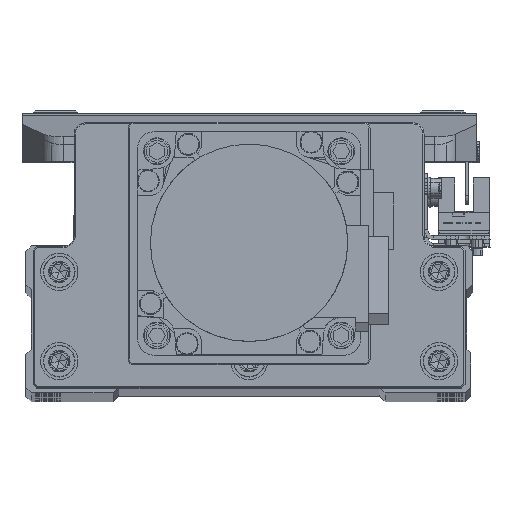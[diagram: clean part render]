
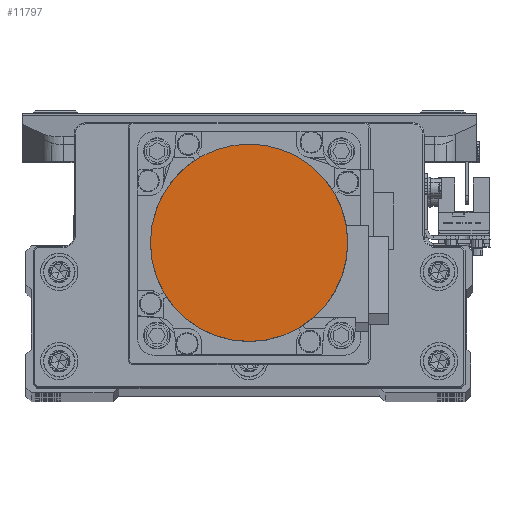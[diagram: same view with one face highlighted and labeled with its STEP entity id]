
A CAD part, top view. The second image highlights one B-rep face of the part: STEP entity #11797.
In plain terms, the highlighted planar face has unit normal (0, 0, 1) as drawn and (0, 0, -1) by its records, which use the part's own axes.
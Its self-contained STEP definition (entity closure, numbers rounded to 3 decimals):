
#3319 = AXIS2_PLACEMENT_3D ( 'NONE', #25471, #25530, #25590 ) ;
#9550 = CARTESIAN_POINT ( 'NONE',  ( 0., 0., -109.7 ) ) ;
#9562 = DIRECTION ( 'NONE',  ( 0., 0., 1. ) ) ;
#9617 = DIRECTION ( 'NONE',  ( 1., 0., 0. ) ) ;
#11797 = ADVANCED_FACE ( 'NONE', ( #36574 ), #39446, .F. ) ;
#12790 = CARTESIAN_POINT ( 'NONE',  ( 26.5, 0., -109.7 ) ) ;
#13372 = CARTESIAN_POINT ( 'NONE',  ( -26.5, 0., -109.7 ) ) ;
#19030 = VERTEX_POINT ( 'NONE', #12790 ) ;
#19062 = ORIENTED_EDGE ( 'NONE', *, *, #43717, .F. ) ;
#20133 = DIRECTION ( 'NONE',  ( 0., 0., 1. ) ) ;
#22438 = DIRECTION ( 'NONE',  ( 1., 0., 0. ) ) ;
#24104 = CARTESIAN_POINT ( 'NONE',  ( 0., 0., -109.7 ) ) ;
#24546 = CIRCLE ( 'NONE', #3319, 26.5 ) ;
#25471 = CARTESIAN_POINT ( 'NONE',  ( 0., 0., -109.7 ) ) ;
#25530 = DIRECTION ( 'NONE',  ( 0., 0., 1. ) ) ;
#25590 = DIRECTION ( 'NONE',  ( -1., 0., 0. ) ) ;
#27947 = VERTEX_POINT ( 'NONE', #13372 ) ;
#31250 = EDGE_CURVE ( 'NONE', #19030, #27947, #34928, .T. ) ;
#34077 = AXIS2_PLACEMENT_3D ( 'NONE', #9550, #9562, #9617 ) ;
#34928 = CIRCLE ( 'NONE', #34077, 26.5 ) ;
#36574 = FACE_OUTER_BOUND ( 'NONE', #41933, .T. ) ;
#38947 = AXIS2_PLACEMENT_3D ( 'NONE', #24104, #20133, #22438 ) ;
#39446 = PLANE ( 'NONE',  #38947 ) ;
#41933 = EDGE_LOOP ( 'NONE', ( #19062, #46608 ) ) ;
#43717 = EDGE_CURVE ( 'NONE', #27947, #19030, #24546, .T. ) ;
#46608 = ORIENTED_EDGE ( 'NONE', *, *, #31250, .F. ) ;
